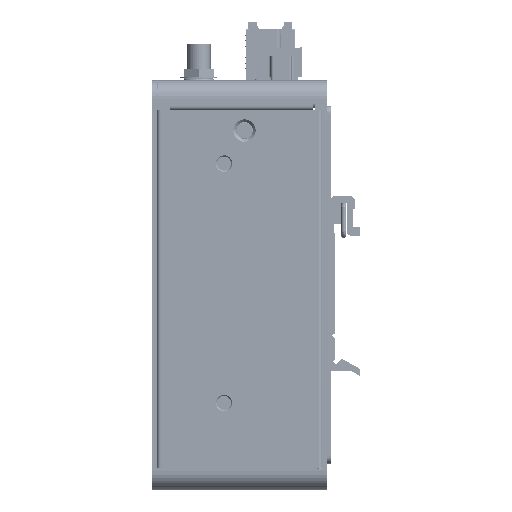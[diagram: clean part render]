
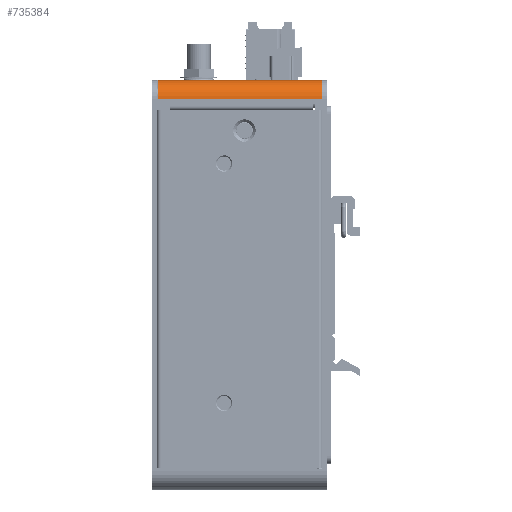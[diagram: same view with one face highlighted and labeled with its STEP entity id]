
A CAD part, left-side view. The second image highlights one B-rep face of the part: STEP entity #735384.
In plain terms, the highlighted cylindrical face has radius 5 mm (diameter 10 mm), a partial arc.
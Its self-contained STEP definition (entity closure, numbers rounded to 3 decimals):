
#36649 = VECTOR ( 'NONE', #374176, 1000. ) ;
#78333 = CARTESIAN_POINT ( 'NONE',  ( -92.5, 0., -5. ) ) ;
#102376 = EDGE_CURVE ( 'NONE', #1001207, #550643, #449673, .T. ) ;
#103233 = DIRECTION ( 'NONE',  ( 0., 0., 1. ) ) ;
#106586 = AXIS2_PLACEMENT_3D ( 'NONE', #78333, #507281, #1012904 ) ;
#109044 = EDGE_CURVE ( 'NONE', #1001207, #296167, #896007, .T. ) ;
#112886 = ORIENTED_EDGE ( 'NONE', *, *, #568712, .T. ) ;
#150580 = CARTESIAN_POINT ( 'NONE',  ( -92.5, 0., 0. ) ) ;
#248107 = DIRECTION ( 'NONE',  ( 0., 0., 1. ) ) ;
#296167 = VERTEX_POINT ( 'NONE', #652629 ) ;
#302685 = ORIENTED_EDGE ( 'NONE', *, *, #109044, .T. ) ;
#374176 = DIRECTION ( 'NONE',  ( 0., -1., 0. ) ) ;
#381195 = CARTESIAN_POINT ( 'NONE',  ( -92.5, -231.24, -5. ) ) ;
#439148 = DIRECTION ( 'NONE',  ( 0., -1., 0. ) ) ;
#449673 = LINE ( 'NONE', #716143, #36649 ) ;
#468041 = FACE_OUTER_BOUND ( 'NONE', #819439, .T. ) ;
#473893 = CARTESIAN_POINT ( 'NONE',  ( -92.5, 44.1, 0. ) ) ;
#477500 = VECTOR ( 'NONE', #508441, 1000. ) ;
#494555 = CIRCLE ( 'NONE', #106586, 5. ) ;
#507281 = DIRECTION ( 'NONE',  ( 0., 1., 0. ) ) ;
#508441 = DIRECTION ( 'NONE',  ( 0., -1., 0. ) ) ;
#511846 = CARTESIAN_POINT ( 'NONE',  ( -97.5, 0., -5. ) ) ;
#550643 = VERTEX_POINT ( 'NONE', #150580 ) ;
#568712 = EDGE_CURVE ( 'NONE', #296167, #1026489, #665151, .T. ) ;
#621473 = ORIENTED_EDGE ( 'NONE', *, *, #1034938, .T. ) ;
#652629 = CARTESIAN_POINT ( 'NONE',  ( -97.5, 44.1, -5. ) ) ;
#665151 = LINE ( 'NONE', #763407, #477500 ) ;
#676406 = AXIS2_PLACEMENT_3D ( 'NONE', #381195, #815676, #103233 ) ;
#716143 = CARTESIAN_POINT ( 'NONE',  ( -92.5, 44.8, 0. ) ) ;
#735384 = ADVANCED_FACE ( 'NONE', ( #468041 ), #809979, .T. ) ;
#763407 = CARTESIAN_POINT ( 'NONE',  ( -97.5, 44.8, -5. ) ) ;
#809979 = CYLINDRICAL_SURFACE ( 'NONE', #676406, 5. ) ;
#815676 = DIRECTION ( 'NONE',  ( 0., 1., 0. ) ) ;
#819439 = EDGE_LOOP ( 'NONE', ( #1030464, #302685, #112886, #621473 ) ) ;
#896007 = CIRCLE ( 'NONE', #1025691, 5. ) ;
#1001207 = VERTEX_POINT ( 'NONE', #473893 ) ;
#1012904 = DIRECTION ( 'NONE',  ( 0., 0., 1. ) ) ;
#1025691 = AXIS2_PLACEMENT_3D ( 'NONE', #1122846, #439148, #248107 ) ;
#1026489 = VERTEX_POINT ( 'NONE', #511846 ) ;
#1030464 = ORIENTED_EDGE ( 'NONE', *, *, #102376, .F. ) ;
#1034938 = EDGE_CURVE ( 'NONE', #1026489, #550643, #494555, .T. ) ;
#1122846 = CARTESIAN_POINT ( 'NONE',  ( -92.5, 44.1, -5. ) ) ;
